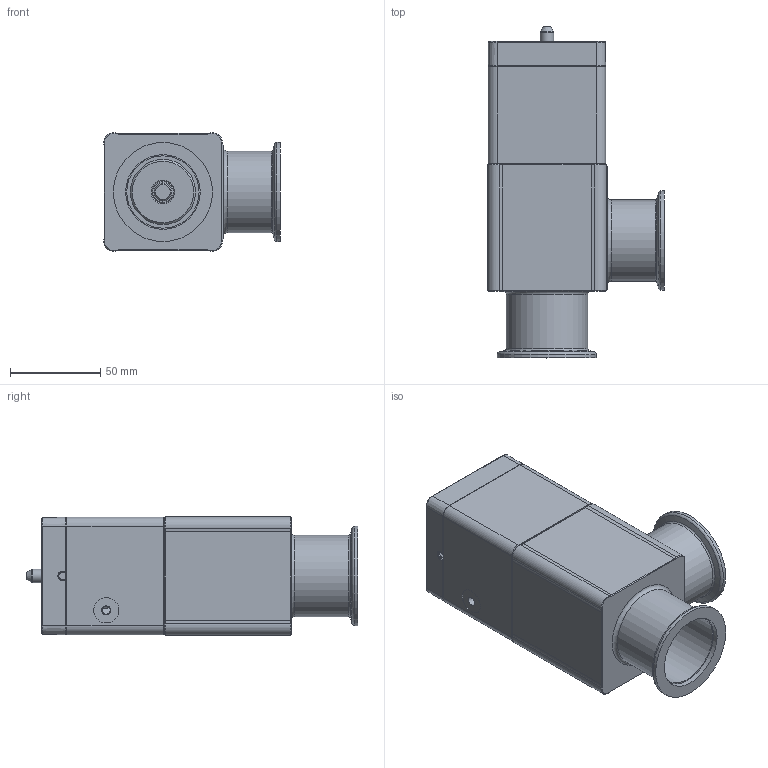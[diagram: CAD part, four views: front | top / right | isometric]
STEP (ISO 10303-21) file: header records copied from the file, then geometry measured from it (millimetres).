
FILE_DESCRIPTION(/* description */ (''),/* implementation_level */ '2;1');
FILE_NAME(/* name */ '1292724397_203.stp',/* time_stamp */ '2013-08-26T10:21:43+02:00',/* author */ (''),/* organization */ (''),/* preprocessor_version */ 'ST-DEVELOPER v11',/* originating_system */ 'SIEMENS PLM Software NX 7.5',/* authorisation */ '');
FILE_SCHEMA (('AP203_CONFIGURATION_CONTROLLED_3D_DESIGN_OF_MECHANICAL_PARTS_AND_ASSEMBLIES_MIM_LF'));
Length unit declared in the file: millimetre
Products named in the file (8): 233232; 236204_1.1; 243875.2; 232294.14; 239737.6; 240792.1; 239984.1; 701484
Assembly tree (11 placements, depth 3):
  701484
    240792.1  x4
    239737.6
    232294.14
    243875.2
    239984.1
      236204_1.1  x2
      233232
Bounding box: 97.8 x 183.79 x 65.59 mm (x, y, z)
Volume: 306389.5 mm3; surface area: 125280.1 mm2
Topology: 18 solids, 18 shells, 597 faces, 1456 edges, 940 vertices
Faces by surface type: plane 333, cylinder 133, cone 97, bspline 22, torus 12
Full cylindrical faces by diameter (mm): 2.5 x3, 2.95 x1, 3 x7, 3.2 x4, 3.26 x4, 3.3 x4, 4 x12, 4.5 x5, 4.6 x1, 4.7 x3, 5 x1, 5.6 x2, 7 x4, 7.4 x1, 8 x7, 9.1 x1, 10 x1, 11.975 x3, 12.012 x1, 12.013 x1, 13.85 x1, 14 x1, 16.555 x1, 36 x1, 40 x2, 41.3 x2, 45 x2, 54 x1, 54.896 x2, 60.095 x1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
Entity records: 16777 total; most frequent: CARTESIAN_POINT 3519, DIRECTION 2463, ORIENTED_EDGE 2260, EDGE_CURVE 1130, AXIS2_PLACEMENT_3D 874, VERTEX_POINT 810, EDGE_LOOP 731, LINE 715
